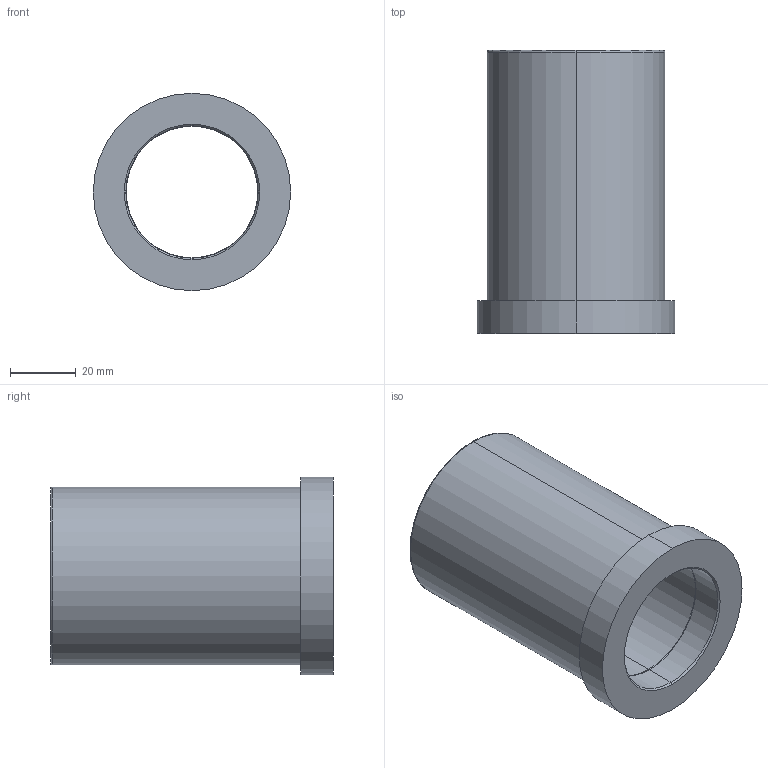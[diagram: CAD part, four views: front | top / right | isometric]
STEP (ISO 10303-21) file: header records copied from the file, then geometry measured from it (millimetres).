
FILE_DESCRIPTION (( 'STEP AP214' ), '1' );
FILE_NAME ('BR11W 40 x 86.STEP', '2020-07-16T11:30:27', ( 'August' ), ( '' ), 'SwSTEP 2.0', 'SolidWorks 2018', '' );
FILE_SCHEMA (( 'AUTOMOTIVE_DESIGN' ));
Length unit declared in the file: millimetre
Products named in the file (1): BR11W 40 x 86
Bounding box: 60 x 86 x 60 mm (x, y, z)
Volume: 94094.5 mm3; surface area: 28614.5 mm2
Topology: 1 solids, 1 shells, 19 faces, 38 edges, 22 vertices
Faces by surface type: cylinder 8, cone 6, plane 3, torus 2
Entity records: 534 total; most frequent: DIRECTION 102, CARTESIAN_POINT 80, ORIENTED_EDGE 76, AXIS2_PLACEMENT_3D 44, EDGE_CURVE 38, CIRCLE 24, VERTEX_POINT 22, EDGE_LOOP 22
